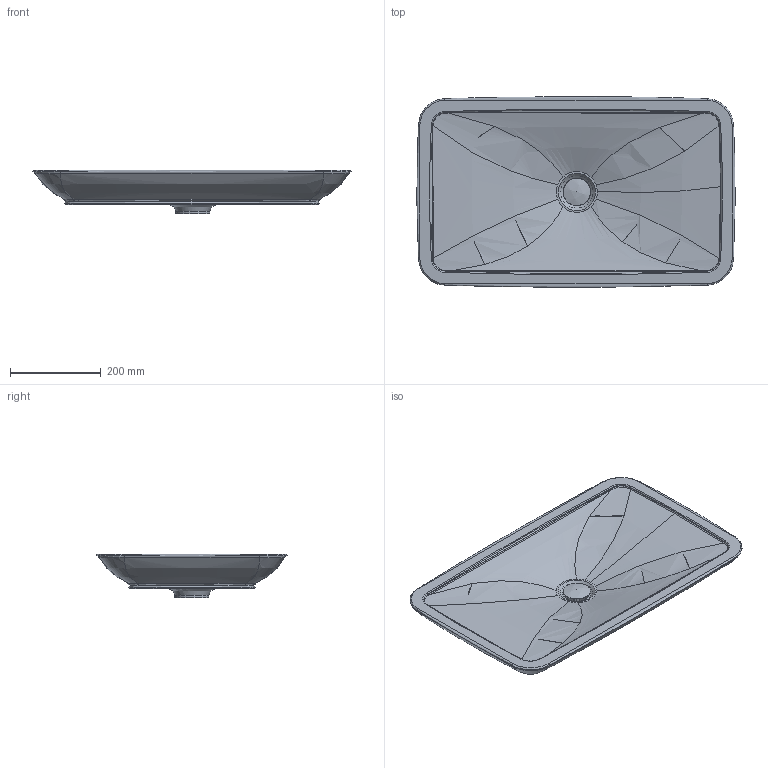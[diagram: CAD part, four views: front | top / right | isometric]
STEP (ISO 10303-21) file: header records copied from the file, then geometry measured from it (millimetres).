
FILE_DESCRIPTION((''),'2;1');
FILE_NAME('C:\Dokumente und Einstellungen\Andreas\Desktop\PURA VIDA Armatur neu HANSGROHE\Versch._3d\stp\037070.stp','2009-08-26T21:16:15',('Andreas'),(''),'Autodesk Inventor 2009','Autodesk Inventor 2009','');
FILE_SCHEMA(('AUTOMOTIVE_DESIGN { 1 0 10303 214 1 1 1 1 }'));
Length unit declared in the file: millimetre
Products named in the file (3): 037070; Stopfen
Assembly tree (2 placements, depth 2):
  037070
    037070
    Stopfen
Bounding box: 699.75 x 419.32 x 95 mm (x, y, z)
Volume: 12415610 mm3; surface area: 666939.6 mm2
Topology: 2 solids, 2 shells, 149 faces, 350 edges, 208 vertices
Faces by surface type: bspline 86, cylinder 26, torus 22, plane 15
Full cylindrical faces by diameter (mm): 52 x1, 60 x1, 75 x1
Entity records: 10874 total; most frequent: CARTESIAN_POINT 7860, ORIENTED_EDGE 680, DIRECTION 488, EDGE_CURVE 340, AXIS2_PLACEMENT_3D 220, VERTEX_POINT 206, EDGE_LOOP 162, CIRCLE 152
